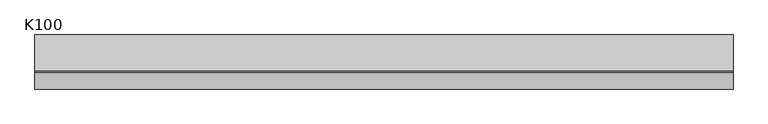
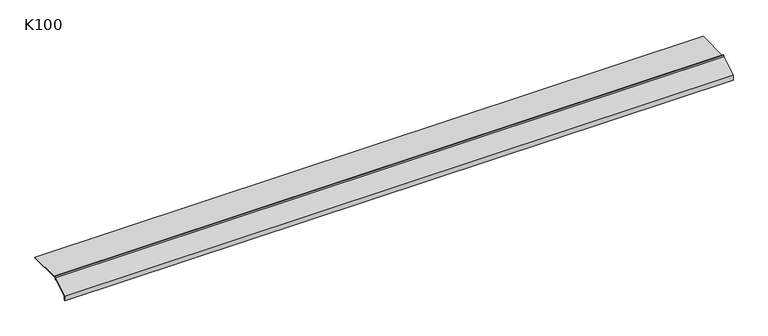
"""IFC4 building model written with IfcOpenShell, lengths in millimetres: proxy geometry, K100 Profil okapowy prosty : K100."""

from ifc_helpers import new_model, si_unit, frame, origin, place, context, project, spatial, polyline, outline, extrude, source, transform, mapped, element, save


def k100_37e1f177(model_context):
    return source(origin(), model_context, "Body", "SweptSolid", [
        extrude(outline(polyline([(0.0, -3.0), (0.0, 0.0), (1.25, 0.0), (1.25, -3.0), (66.25, -3.0), (66.25, -4.25), (1.25, -4.25), (1.25, -7.25), (0.0, -7.25), (0.0, -4.4598861), (-28.75, -21.8057194), (-28.75, -29.17), (-30.0, -30.42), (-30.0, -21.1), (0.0, -3.0)])), frame((0.0, 0.0, 0.0), z_axis=(1.0, 0.0, 0.0), x_axis=(0.0, 1.0, 0.0)), (0.0, 0.0, 1.0), 1241.719097),
    ])


if __name__ == "__main__":
    model = new_model("IFC4")
    model_context = context("Model", 3, world=origin())
    ifc_project = project(units=[si_unit("LENGTHUNIT", "METRE", prefix="MILLI")], contexts=[model_context])
    site = spatial("IfcSite", under=ifc_project)
    building = spatial("IfcBuilding", under=site)
    placement = place(None, origin())
    k100_shape = k100_37e1f177(model_context)
    element("IfcBuildingElementProxy", 1, Name="K100 Profil okapowy prosty : K100", ObjectType="K100 Profil okapowy prosty : K100", at=placement, inside=building, context=model_context, shape_type="MappedRepresentation", body=[
        mapped(k100_shape, transform((0.0, 0.0, 0.0), x_axis=(1.0, 0.0, 0.0), y_axis=(0.0, 1.0, 0.0), z_axis=(0.0, 0.0, 1.0))),
    ])
    save(model, "model.ifc")
